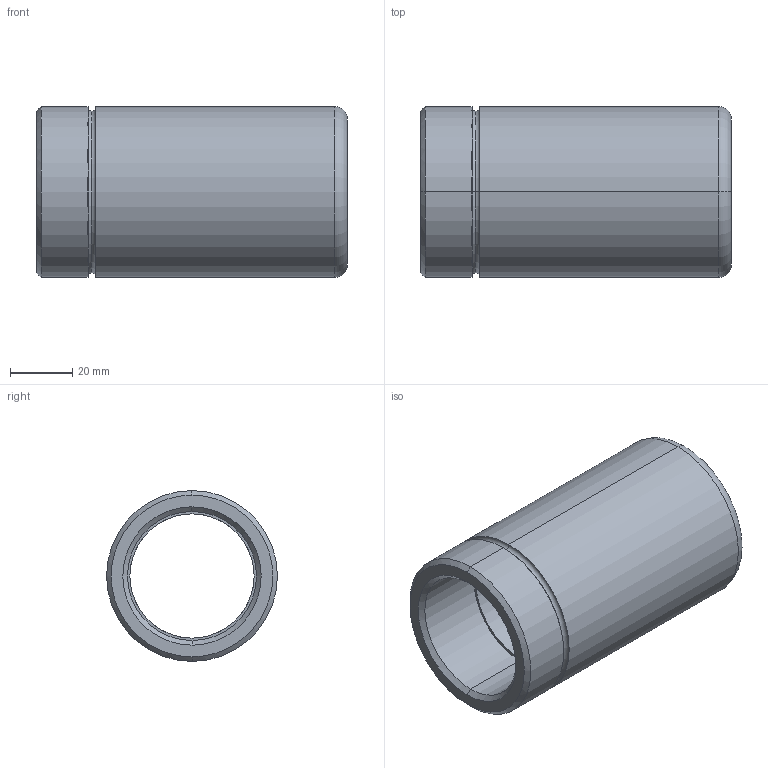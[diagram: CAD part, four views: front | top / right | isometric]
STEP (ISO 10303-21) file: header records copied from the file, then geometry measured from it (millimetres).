
FILE_DESCRIPTION(('CATIA V5 STEP Exchange'),'2;1');
FILE_NAME('C:\Users\Utente\Desktop\IO LAVORO\3D X SITO CF\X SITO\3D files 348\348-40 x 100.stp','2020-12-30T19:54:14+00:00',('none'),('none'),'CATIA Version 5 Release 20 GA (IN-10)','CATIA V5 STEP AP203','none');
FILE_SCHEMA(('CONFIG_CONTROL_DESIGN'));
Length unit declared in the file: millimetre
Products named in the file (1): 348-40 x 100
Bounding box: 100 x 55 x 55 mm (x, y, z)
Volume: 107695.4 mm3; surface area: 32132.5 mm2
Topology: 1 solids, 1 shells, 29 faces, 86 edges, 60 vertices
Faces by surface type: torus 12, cylinder 10, cone 4, plane 3
Entity records: 1154 total; most frequent: CARTESIAN_POINT 344, ORIENTED_EDGE 172, DIRECTION 132, AXIS2_PLACEMENT_3D 90, EDGE_CURVE 86, CIRCLE 60, VERTEX_POINT 60, EDGE_LOOP 32
